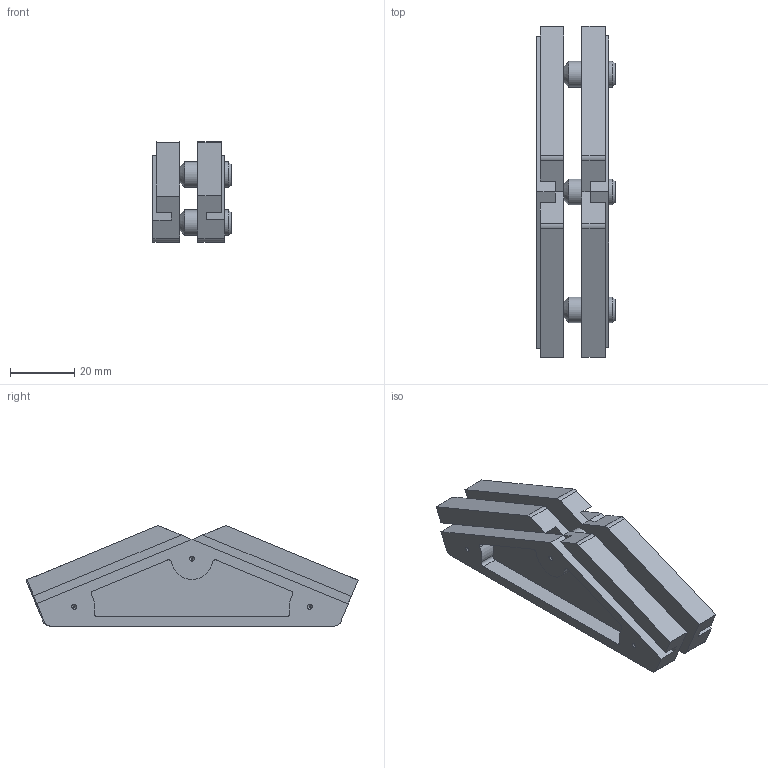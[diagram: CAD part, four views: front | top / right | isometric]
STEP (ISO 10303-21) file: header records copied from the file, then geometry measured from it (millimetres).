
FILE_DESCRIPTION(/* description */ ('ANGLE BRACKET 135° FOR SUPPORT BEAM 40x40, 40x80 AND 60x60 '),/* implementation_level */ '2;1');
FILE_NAME(/* name */ '\\carryline.intra\privat\users\mathias\Desktop\Tillfälliga filer\100-3020.stp',/* time_stamp */ '2018-11-20T10:48:44+01:00',/* author */ ('mikael'),/* organization */ (''),/* preprocessor_version */ 'ST-DEVELOPER v17',/* originating_system */ 'Autodesk Inventor 2018',/* authorisation */ '');
FILE_SCHEMA (('AUTOMOTIVE_DESIGN { 1 0 10303 214 3 1 1 }'));
Length unit declared in the file: millimetre
Products named in the file (4): 100-3020; 100-3035-2; 100-3035-3; DIN 916 - M8  x  16
Assembly tree (5 placements, depth 2):
  100-3020
    100-3035-2
    100-3035-3
    DIN 916 - M8  x  16  x3
Bounding box: 24.4 x 103.6 x 31.21 mm (x, y, z)
Volume: 29455.1 mm3; surface area: 18805.9 mm2
Topology: 5 solids, 5 shells, 131 faces, 318 edges, 199 vertices
Faces by surface type: plane 84, cylinder 32, cone 15
Full cylindrical faces by diameter (mm): 6.647 x3, 8 x3
Entity records: 3028 total; most frequent: DIRECTION 527, CARTESIAN_POINT 497, ORIENTED_EDGE 476, EDGE_CURVE 238, AXIS2_PLACEMENT_3D 185, LINE 157, VECTOR 157, VERTEX_POINT 155
